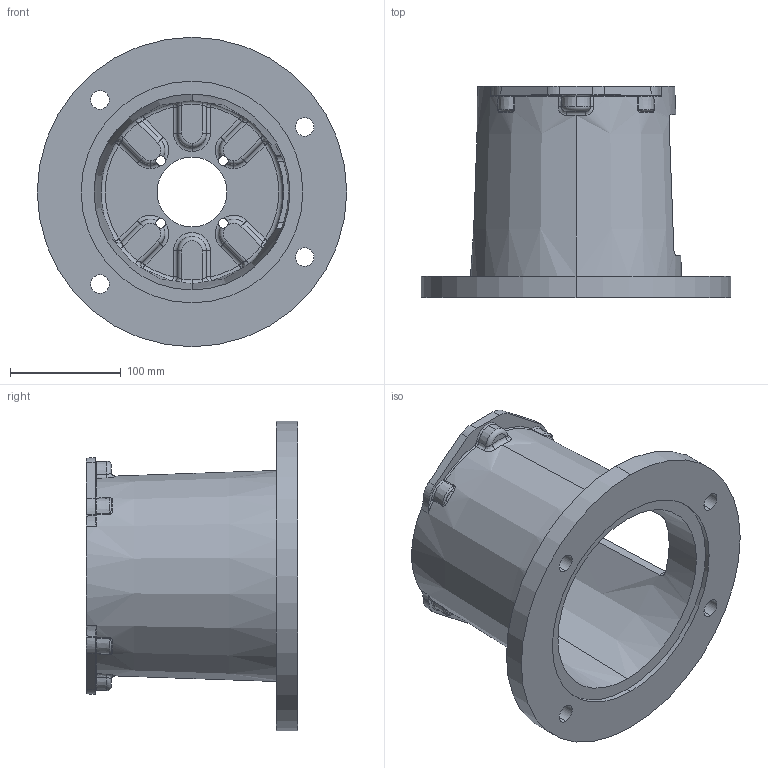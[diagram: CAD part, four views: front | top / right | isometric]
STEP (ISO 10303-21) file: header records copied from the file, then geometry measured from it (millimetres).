
FILE_DESCRIPTION (( 'STEP AP203' ), '1' );
FILE_NAME ('E7877563MS.STEP', '2014-11-04T15:44:23', ( '' ), ( '' ), 'SwSTEP 2.0', 'SolidWorks 2014', '' );
FILE_SCHEMA (( 'CONFIG_CONTROL_DESIGN' ));
Length unit declared in the file: inch
Products named in the file (1): E7877563MS
Bounding box: 279.4 x 190.5 x 279.4 mm (x, y, z)
Volume: 1567010.2 mm3; surface area: 326345.3 mm2
Topology: 1 solids, 1 shells, 346 faces, 884 edges, 527 vertices
Faces by surface type: torus 109, cylinder 82, bspline 64, plane 45, sphere 24, cone 22
Entity records: 14025 total; most frequent: CARTESIAN_POINT 5954, ORIENTED_EDGE 1744, DIRECTION 1702, EDGE_CURVE 872, AXIS2_PLACEMENT_3D 773, VERTEX_POINT 527, CIRCLE 490, EDGE_LOOP 365
